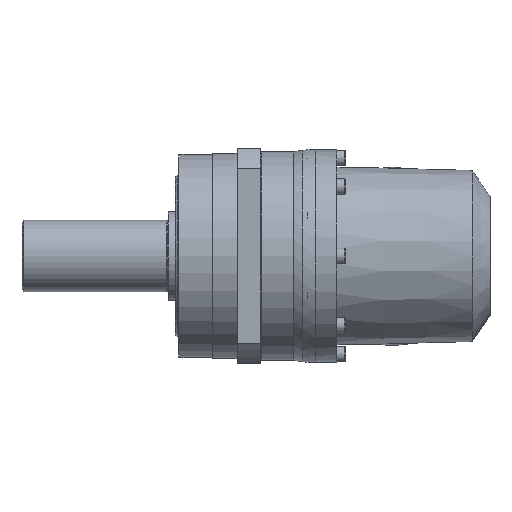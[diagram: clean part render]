
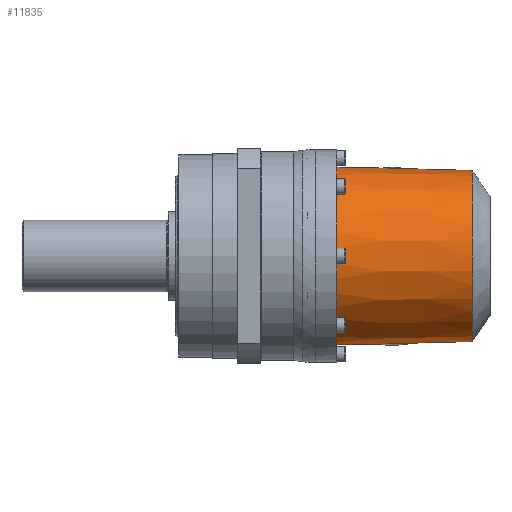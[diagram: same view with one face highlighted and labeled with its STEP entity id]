
A CAD part, top view. The second image highlights one B-rep face of the part: STEP entity #11835.
In plain terms, the highlighted conical face has half-angle 1.507 degrees and reference radius 49 mm.
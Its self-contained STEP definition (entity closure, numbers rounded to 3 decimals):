
#697=CONICAL_SURFACE('',#13237,49.,0.026);
#1405=FACE_OUTER_BOUND('',#2124,.T.);
#2124=EDGE_LOOP('',(#9232,#9233,#9234,#9235,#9236,#9237,#9238));
#2725=B_SPLINE_CURVE_WITH_KNOTS('',3,(#20446,#20447,#20448,#20449),
 .UNSPECIFIED.,.F.,.F.,(4,4),(0.5,5.292),
 .UNSPECIFIED.);
#2729=B_SPLINE_CURVE_WITH_KNOTS('',3,(#20607,#20608,#20609,#20610,#20611,
#20612,#20613,#20614,#20615,#20616,#20617,#20618,#20619,#20620,#20621,#20622,
#20623,#20624,#20625,#20626,#20627,#20628,#20629,#20630,#20631,#20632,#20633,
#20634,#20635,#20636,#20637,#20638,#20639,#20640,#20641,#20642,#20643,#20644,
#20645,#20646),.UNSPECIFIED.,.F.,.F.,(4,3,3,3,3,3,3,3,3,3,3,3,3,4),(-10.923,
-10.569,-10.204,-9.819,-9.568,
-9.149,-8.714,-8.257,-8.03,
-7.583,-7.137,-6.894,-6.651,
-6.492),.UNSPECIFIED.);
#2734=B_SPLINE_CURVE_WITH_KNOTS('',3,(#20679,#20680,#20681,#20682,#20683,
#20684,#20685,#20686,#20687,#20688,#20689,#20690,#20691,#20692,#20693,#20694,
#20695,#20696,#20697,#20698,#20699,#20700,#20701,#20702,#20703,#20704,#20705,
#20706,#20707,#20708,#20709,#20710,#20711,#20712,#20713,#20714,#20715,#20716,
#20717,#20718),.UNSPECIFIED.,.F.,.F.,(4,3,3,3,3,3,3,3,3,3,3,3,3,4),(-17.257,
-16.765,-16.229,-15.718,-15.217,-14.775,
-14.561,-14.258,-14.181,-13.89,
-13.609,-13.335,-13.072,-12.825),
 .UNSPECIFIED.);
#2735=B_SPLINE_CURVE_WITH_KNOTS('',3,(#20740,#20741,#20742,#20743),
 .UNSPECIFIED.,.F.,.F.,(4,4),(-5.292,-0.5),
 .UNSPECIFIED.);
#4278=CIRCLE('',#13238,48.);
#4279=CIRCLE('',#13239,48.);
#4280=CIRCLE('',#13240,50.);
#5387=VERTEX_POINT('',#20395);
#5388=VERTEX_POINT('',#20445);
#5390=VERTEX_POINT('',#20531);
#5391=VERTEX_POINT('',#20532);
#5392=VERTEX_POINT('',#20606);
#5396=VERTEX_POINT('',#20739);
#5399=VERTEX_POINT('',#20804);
#6892=EDGE_CURVE('',#5387,#5388,#2725,.T.);
#6896=EDGE_CURVE('',#5390,#5392,#2729,.T.);
#6901=EDGE_CURVE('',#5388,#5391,#2734,.T.);
#6902=EDGE_CURVE('',#5392,#5396,#2735,.T.);
#6906=EDGE_CURVE('',#5390,#5399,#4278,.T.);
#6907=EDGE_CURVE('',#5399,#5391,#4279,.T.);
#6908=EDGE_CURVE('',#5396,#5387,#4280,.T.);
#9232=ORIENTED_EDGE('',*,*,#6902,.F.);
#9233=ORIENTED_EDGE('',*,*,#6896,.F.);
#9234=ORIENTED_EDGE('',*,*,#6906,.T.);
#9235=ORIENTED_EDGE('',*,*,#6907,.T.);
#9236=ORIENTED_EDGE('',*,*,#6901,.F.);
#9237=ORIENTED_EDGE('',*,*,#6892,.F.);
#9238=ORIENTED_EDGE('',*,*,#6908,.F.);
#11835=ADVANCED_FACE('',(#1405),#697,.T.);
#13237=AXIS2_PLACEMENT_3D('',#20803,#15695,#15696);
#13238=AXIS2_PLACEMENT_3D('',#20805,#15697,#15698);
#13239=AXIS2_PLACEMENT_3D('',#20806,#15699,#15700);
#13240=AXIS2_PLACEMENT_3D('',#20807,#15701,#15702);
#15695=DIRECTION('center_axis',(-1.,0.,0.));
#15696=DIRECTION('ref_axis',(0.,0.,-1.));
#15697=DIRECTION('center_axis',(-1.,0.,0.));
#15698=DIRECTION('ref_axis',(0.,0.,1.));
#15699=DIRECTION('center_axis',(-1.,0.,0.));
#15700=DIRECTION('ref_axis',(0.,0.,1.));
#15701=DIRECTION('center_axis',(-1.,0.,0.));
#15702=DIRECTION('ref_axis',(0.,0.,1.));
#20395=CARTESIAN_POINT('',(12.,-35.15,35.559));
#20445=CARTESIAN_POINT('',(59.899,-34.554,34.374));
#20446=CARTESIAN_POINT('Ctrl Pts',(12.,-35.15,35.559));
#20447=CARTESIAN_POINT('Ctrl Pts',(27.966,-34.952,35.164));
#20448=CARTESIAN_POINT('Ctrl Pts',(43.932,-34.753,34.769));
#20449=CARTESIAN_POINT('Ctrl Pts',(59.899,-34.554,34.374));
#20531=CARTESIAN_POINT('',(88.,8.479,47.245));
#20532=CARTESIAN_POINT('',(88.,-8.479,47.245));
#20606=CARTESIAN_POINT('',(59.899,34.554,34.374));
#20607=CARTESIAN_POINT('Ctrl Pts',(88.,8.479,47.246));
#20608=CARTESIAN_POINT('Ctrl Pts',(87.704,9.501,47.07));
#20609=CARTESIAN_POINT('Ctrl Pts',(87.357,10.505,46.864));
#20610=CARTESIAN_POINT('Ctrl Pts',(86.962,11.488,46.631));
#20611=CARTESIAN_POINT('Ctrl Pts',(86.555,12.499,46.392));
#20612=CARTESIAN_POINT('Ctrl Pts',(86.099,13.488,46.125));
#20613=CARTESIAN_POINT('Ctrl Pts',(85.597,14.452,45.836));
#20614=CARTESIAN_POINT('Ctrl Pts',(85.068,15.466,45.53));
#20615=CARTESIAN_POINT('Ctrl Pts',(84.49,16.452,45.2));
#20616=CARTESIAN_POINT('Ctrl Pts',(83.867,17.405,44.849));
#20617=CARTESIAN_POINT('Ctrl Pts',(83.46,18.028,44.619));
#20618=CARTESIAN_POINT('Ctrl Pts',(83.034,18.637,44.381));
#20619=CARTESIAN_POINT('Ctrl Pts',(82.591,19.231,44.136));
#20620=CARTESIAN_POINT('Ctrl Pts',(81.849,20.225,43.726));
#20621=CARTESIAN_POINT('Ctrl Pts',(81.059,21.177,43.295));
#20622=CARTESIAN_POINT('Ctrl Pts',(80.223,22.089,42.849));
#20623=CARTESIAN_POINT('Ctrl Pts',(79.358,23.033,42.388));
#20624=CARTESIAN_POINT('Ctrl Pts',(78.444,23.934,41.912));
#20625=CARTESIAN_POINT('Ctrl Pts',(77.486,24.792,41.427));
#20626=CARTESIAN_POINT('Ctrl Pts',(76.482,25.691,40.919));
#20627=CARTESIAN_POINT('Ctrl Pts',(75.431,26.543,40.402));
#20628=CARTESIAN_POINT('Ctrl Pts',(74.336,27.347,39.884));
#20629=CARTESIAN_POINT('Ctrl Pts',(73.79,27.748,39.626));
#20630=CARTESIAN_POINT('Ctrl Pts',(73.233,28.138,39.368));
#20631=CARTESIAN_POINT('Ctrl Pts',(72.667,28.516,39.11));
#20632=CARTESIAN_POINT('Ctrl Pts',(71.556,29.257,38.605));
#20633=CARTESIAN_POINT('Ctrl Pts',(70.406,29.954,38.103));
#20634=CARTESIAN_POINT('Ctrl Pts',(69.22,30.605,37.613));
#20635=CARTESIAN_POINT('Ctrl Pts',(68.034,31.256,37.124));
#20636=CARTESIAN_POINT('Ctrl Pts',(66.811,31.862,36.647));
#20637=CARTESIAN_POINT('Ctrl Pts',(65.554,32.421,36.19));
#20638=CARTESIAN_POINT('Ctrl Pts',(64.87,32.726,35.942));
#20639=CARTESIAN_POINT('Ctrl Pts',(64.175,33.017,35.7));
#20640=CARTESIAN_POINT('Ctrl Pts',(63.471,33.294,35.466));
#20641=CARTESIAN_POINT('Ctrl Pts',(62.767,33.571,35.231));
#20642=CARTESIAN_POINT('Ctrl Pts',(62.053,33.834,35.005));
#20643=CARTESIAN_POINT('Ctrl Pts',(61.33,34.083,34.788));
#20644=CARTESIAN_POINT('Ctrl Pts',(60.857,34.246,34.645));
#20645=CARTESIAN_POINT('Ctrl Pts',(60.38,34.403,34.507));
#20646=CARTESIAN_POINT('Ctrl Pts',(59.899,34.554,34.374));
#20679=CARTESIAN_POINT('Ctrl Pts',(59.899,-34.554,34.374));
#20680=CARTESIAN_POINT('Ctrl Pts',(61.387,-34.087,34.787));
#20681=CARTESIAN_POINT('Ctrl Pts',(62.837,-33.563,35.243));
#20682=CARTESIAN_POINT('Ctrl Pts',(64.246,-32.982,35.727));
#20683=CARTESIAN_POINT('Ctrl Pts',(65.782,-32.349,36.256));
#20684=CARTESIAN_POINT('Ctrl Pts',(67.27,-31.648,36.82));
#20685=CARTESIAN_POINT('Ctrl Pts',(68.706,-30.882,37.403));
#20686=CARTESIAN_POINT('Ctrl Pts',(70.073,-30.152,37.959));
#20687=CARTESIAN_POINT('Ctrl Pts',(71.393,-29.363,38.532));
#20688=CARTESIAN_POINT('Ctrl Pts',(72.664,-28.514,39.11));
#20689=CARTESIAN_POINT('Ctrl Pts',(73.913,-27.68,39.678));
#20690=CARTESIAN_POINT('Ctrl Pts',(75.114,-26.789,40.251));
#20691=CARTESIAN_POINT('Ctrl Pts',(76.261,-25.841,40.817));
#20692=CARTESIAN_POINT('Ctrl Pts',(77.271,-25.005,41.315));
#20693=CARTESIAN_POINT('Ctrl Pts',(78.238,-24.124,41.809));
#20694=CARTESIAN_POINT('Ctrl Pts',(79.158,-23.199,42.289));
#20695=CARTESIAN_POINT('Ctrl Pts',(79.604,-22.751,42.522));
#20696=CARTESIAN_POINT('Ctrl Pts',(80.038,-22.292,42.752));
#20697=CARTESIAN_POINT('Ctrl Pts',(80.461,-21.822,42.978));
#20698=CARTESIAN_POINT('Ctrl Pts',(81.058,-21.158,43.297));
#20699=CARTESIAN_POINT('Ctrl Pts',(81.632,-20.474,43.609));
#20700=CARTESIAN_POINT('Ctrl Pts',(82.18,-19.768,43.91));
#20701=CARTESIAN_POINT('Ctrl Pts',(82.319,-19.589,43.986));
#20702=CARTESIAN_POINT('Ctrl Pts',(82.456,-19.408,44.062));
#20703=CARTESIAN_POINT('Ctrl Pts',(82.592,-19.227,44.137));
#20704=CARTESIAN_POINT('Ctrl Pts',(83.107,-18.537,44.422));
#20705=CARTESIAN_POINT('Ctrl Pts',(83.598,-17.827,44.697));
#20706=CARTESIAN_POINT('Ctrl Pts',(84.064,-17.1,44.96));
#20707=CARTESIAN_POINT('Ctrl Pts',(84.511,-16.4,45.213));
#20708=CARTESIAN_POINT('Ctrl Pts',(84.935,-15.683,45.454));
#20709=CARTESIAN_POINT('Ctrl Pts',(85.332,-14.95,45.682));
#20710=CARTESIAN_POINT('Ctrl Pts',(85.719,-14.236,45.905));
#20711=CARTESIAN_POINT('Ctrl Pts',(86.082,-13.506,46.116));
#20712=CARTESIAN_POINT('Ctrl Pts',(86.418,-12.763,46.312));
#20713=CARTESIAN_POINT('Ctrl Pts',(86.741,-12.048,46.5));
#20714=CARTESIAN_POINT('Ctrl Pts',(87.039,-11.32,46.676));
#20715=CARTESIAN_POINT('Ctrl Pts',(87.31,-10.581,46.836));
#20716=CARTESIAN_POINT('Ctrl Pts',(87.564,-9.89,46.986));
#20717=CARTESIAN_POINT('Ctrl Pts',(87.795,-9.189,47.123));
#20718=CARTESIAN_POINT('Ctrl Pts',(88.,-8.479,47.246));
#20739=CARTESIAN_POINT('',(12.,35.15,35.559));
#20740=CARTESIAN_POINT('Ctrl Pts',(59.899,34.554,34.374));
#20741=CARTESIAN_POINT('Ctrl Pts',(43.932,34.753,34.769));
#20742=CARTESIAN_POINT('Ctrl Pts',(27.966,34.952,35.164));
#20743=CARTESIAN_POINT('Ctrl Pts',(12.,35.15,35.559));
#20803=CARTESIAN_POINT('Origin',(50.,0.,0.));
#20804=CARTESIAN_POINT('',(88.,48.,0.));
#20805=CARTESIAN_POINT('Origin',(88.,0.,0.));
#20806=CARTESIAN_POINT('Origin',(88.,0.,0.));
#20807=CARTESIAN_POINT('Origin',(12.,0.,0.));
